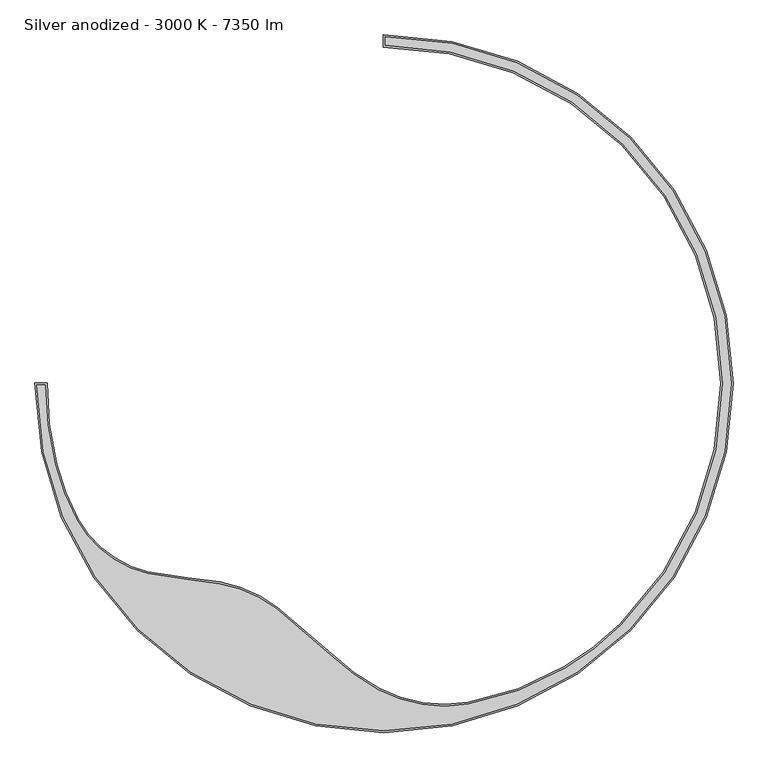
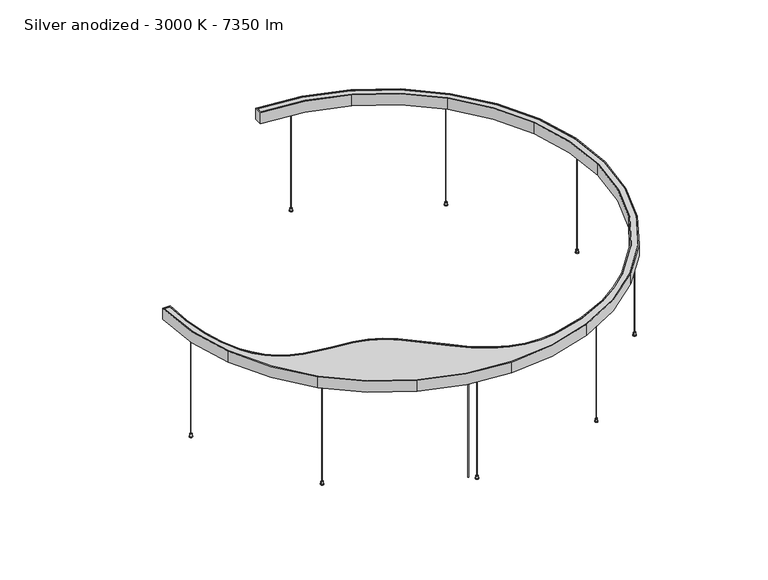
"""IFC4 building model written with IfcOpenShell, lengths in millimetres: light fixture geometry, KLUŚ - MIFOR - MI-MOON : Silver anodized - 3000 K - 7350 lm."""

from ifc_helpers import new_model, si_unit, point, frame, frame_2d, origin, origin_with_axes, origin_2d, place, context, project, spatial, polyline, circle_curve, trimmed, segment, composite_curve, outline, extrude, source, transform, mapped, element, save


def silver_anodized_3000_k_7350_lm_4203b03f(model_context):
    return source(origin(), model_context, "Body", "SweptSolid", [
        extrude(outline(composite_curve([segment(trimmed(circle_curve(frame_2d((-1028.0681684, -176.2957148)), 1.75), [point((-1026.3181684, -176.2957148))], [point((-1029.8181684, -176.2957148))], False, "CARTESIAN"), True, "CONTINUOUS"), segment(trimmed(circle_curve(frame_2d((-1028.0681684, -176.2957148)), 1.75), [point((-1029.8181684, -176.2957148))], [point((-1026.3181684, -176.2957148))], False, "CARTESIAN"), True, "CONTINUOUS")], self_intersect=False)), frame((0.0, 0.0, 500.5), z_axis=(0.0, 0.0, 1.0), x_axis=(1.0, 0.0, 0.0)), (0.0, 0.0, 1.0), 3.5),
        extrude(outline(composite_curve([segment(trimmed(circle_curve(frame_2d((-728.1150271, -746.865129)), 1.75), [point((-726.3650271, -746.865129))], [point((-729.8650271, -746.865129))], False, "CARTESIAN"), True, "CONTINUOUS"), segment(trimmed(circle_curve(frame_2d((-728.1150271, -746.865129)), 1.75), [point((-729.8650271, -746.865129))], [point((-726.3650271, -746.865129))], False, "CARTESIAN"), True, "CONTINUOUS")], self_intersect=False)), frame((0.0, 0.0, 500.5), z_axis=(0.0, 0.0, 1.0), x_axis=(1.0, 0.0, 0.0)), (0.0, 0.0, 1.0), 3.5),
        extrude(outline(composite_curve([segment(trimmed(circle_curve(frame_2d((-150.0755513, -1032.1574488)), 1.75), [point((-148.3255513, -1032.1574488))], [point((-151.8255513, -1032.1574488))], False, "CARTESIAN"), True, "CONTINUOUS"), segment(trimmed(circle_curve(frame_2d((-150.0755513, -1032.1574488)), 1.75), [point((-151.8255513, -1032.1574488))], [point((-148.3255513, -1032.1574488))], False, "CARTESIAN"), True, "CONTINUOUS")], self_intersect=False)), frame((0.0, 0.0, 500.5), z_axis=(0.0, 0.0, 1.0), x_axis=(1.0, 0.0, 0.0)), (0.0, 0.0, 1.0), 3.5),
        extrude(outline(composite_curve([segment(trimmed(circle_curve(frame_2d((485.2588263, -923.2007047)), 1.75), [point((487.0088263, -923.2007047))], [point((483.5088263, -923.2007047))], False, "CARTESIAN"), True, "CONTINUOUS"), segment(trimmed(circle_curve(frame_2d((485.2588263, -923.2007047)), 1.75), [point((483.5088263, -923.2007047))], [point((487.0088263, -923.2007047))], False, "CARTESIAN"), True, "CONTINUOUS")], self_intersect=False)), frame((0.0, 0.0, 500.5), z_axis=(0.0, 0.0, 1.0), x_axis=(1.0, 0.0, 0.0)), (0.0, 0.0, 1.0), 3.5),
        extrude(outline(composite_curve([segment(trimmed(circle_curve(frame_2d((935.2119675, -461.6126697)), 1.75), [point((936.9619675, -461.6126697))], [point((933.4619675, -461.6126697))], False, "CARTESIAN"), True, "CONTINUOUS"), segment(trimmed(circle_curve(frame_2d((935.2119675, -461.6126697)), 1.75), [point((933.4619675, -461.6126697))], [point((936.9619675, -461.6126697))], False, "CARTESIAN"), True, "CONTINUOUS")], self_intersect=False)), frame((0.0, 0.0, 500.5), z_axis=(0.0, 0.0, 1.0), x_axis=(1.0, 0.0, 0.0)), (0.0, 0.0, 1.0), 3.5),
        extrude(outline(composite_curve([segment(trimmed(circle_curve(frame_2d((1027.9170658, 176.2957157)), 1.75), [point((1029.6670658, 176.2957157))], [point((1026.1670658, 176.2957157))], False, "CARTESIAN"), True, "CONTINUOUS"), segment(trimmed(circle_curve(frame_2d((1027.9170658, 176.2957157)), 1.75), [point((1026.1670658, 176.2957157))], [point((1029.6670658, 176.2957157))], False, "CARTESIAN"), True, "CONTINUOUS")], self_intersect=False)), frame((0.0, 0.0, 500.5), z_axis=(0.0, 0.0, 1.0), x_axis=(1.0, 0.0, 0.0)), (0.0, 0.0, 1.0), 3.5),
        extrude(outline(composite_curve([segment(trimmed(circle_curve(frame_2d((727.9639246, 746.8651299)), 1.75), [point((729.7139246, 746.8651299))], [point((726.2139246, 746.8651299))], False, "CARTESIAN"), True, "CONTINUOUS"), segment(trimmed(circle_curve(frame_2d((727.9639246, 746.8651299)), 1.75), [point((726.2139246, 746.8651299))], [point((729.7139246, 746.8651299))], False, "CARTESIAN"), True, "CONTINUOUS")], self_intersect=False)), frame((0.0, 0.0, 500.5), z_axis=(0.0, 0.0, 1.0), x_axis=(1.0, 0.0, 0.0)), (0.0, 0.0, 1.0), 3.5),
        extrude(outline(composite_curve([segment(trimmed(circle_curve(frame_2d((149.9244487, 1032.1574497)), 1.75), [point((151.6744487, 1032.1574497))], [point((148.1744487, 1032.1574497))], False, "CARTESIAN"), True, "CONTINUOUS"), segment(trimmed(circle_curve(frame_2d((149.9244487, 1032.1574497)), 1.75), [point((148.1744487, 1032.1574497))], [point((151.6744487, 1032.1574497))], False, "CARTESIAN"), True, "CONTINUOUS")], self_intersect=False)), frame((0.0, 0.0, 500.5), z_axis=(0.0, 0.0, 1.0), x_axis=(1.0, 0.0, 0.0)), (0.0, 0.0, 1.0), 3.5),
        extrude(outline(composite_curve([segment(trimmed(circle_curve(frame_2d((-1028.0681684, -176.2957148)), 5.0), [point((-1023.0681684, -176.2957148))], [point((-1033.0681684, -176.2957148))], False, "CARTESIAN"), True, "CONTINUOUS"), segment(trimmed(circle_curve(frame_2d((-1028.0681684, -176.2957148)), 5.0), [point((-1033.0681684, -176.2957148))], [point((-1023.0681684, -176.2957148))], False, "CARTESIAN"), True, "CONTINUOUS")], self_intersect=False)), frame((0.0, 0.0, 3.0), z_axis=(0.0, 0.0, 1.0), x_axis=(1.0, 0.0, 0.0)), (0.0, 0.0, 1.0), 12.0),
        extrude(outline(composite_curve([segment(trimmed(circle_curve(frame_2d((-728.1150271, -746.865129)), 5.0), [point((-723.1150271, -746.865129))], [point((-733.1150271, -746.865129))], False, "CARTESIAN"), True, "CONTINUOUS"), segment(trimmed(circle_curve(frame_2d((-728.1150271, -746.865129)), 5.0), [point((-733.1150271, -746.865129))], [point((-723.1150271, -746.865129))], False, "CARTESIAN"), True, "CONTINUOUS")], self_intersect=False)), frame((0.0, 0.0, 3.0), z_axis=(0.0, 0.0, 1.0), x_axis=(1.0, 0.0, 0.0)), (0.0, 0.0, 1.0), 12.0),
        extrude(outline(composite_curve([segment(trimmed(circle_curve(frame_2d((-150.0755513, -1032.1574488)), 5.0), [point((-145.0755513, -1032.1574488))], [point((-155.0755513, -1032.1574488))], False, "CARTESIAN"), True, "CONTINUOUS"), segment(trimmed(circle_curve(frame_2d((-150.0755513, -1032.1574488)), 5.0), [point((-155.0755513, -1032.1574488))], [point((-145.0755513, -1032.1574488))], False, "CARTESIAN"), True, "CONTINUOUS")], self_intersect=False)), frame((0.0, 0.0, 3.0), z_axis=(0.0, 0.0, 1.0), x_axis=(1.0, 0.0, 0.0)), (0.0, 0.0, 1.0), 12.0),
        extrude(outline(composite_curve([segment(trimmed(circle_curve(frame_2d((485.2588263, -923.2007047)), 5.0), [point((490.2588263, -923.2007047))], [point((480.2588263, -923.2007047))], False, "CARTESIAN"), True, "CONTINUOUS"), segment(trimmed(circle_curve(frame_2d((485.2588263, -923.2007047)), 5.0), [point((480.2588263, -923.2007047))], [point((490.2588263, -923.2007047))], False, "CARTESIAN"), True, "CONTINUOUS")], self_intersect=False)), frame((0.0, 0.0, 3.0), z_axis=(0.0, 0.0, 1.0), x_axis=(1.0, 0.0, 0.0)), (0.0, 0.0, 1.0), 12.0),
        extrude(outline(composite_curve([segment(trimmed(circle_curve(frame_2d((935.2119675, -461.6126697)), 5.0), [point((940.2119675, -461.6126697))], [point((930.2119675, -461.6126697))], False, "CARTESIAN"), True, "CONTINUOUS"), segment(trimmed(circle_curve(frame_2d((935.2119675, -461.6126697)), 5.0), [point((930.2119675, -461.6126697))], [point((940.2119675, -461.6126697))], False, "CARTESIAN"), True, "CONTINUOUS")], self_intersect=False)), frame((0.0, 0.0, 3.0), z_axis=(0.0, 0.0, 1.0), x_axis=(1.0, 0.0, 0.0)), (0.0, 0.0, 1.0), 12.0),
        extrude(outline(composite_curve([segment(trimmed(circle_curve(frame_2d((1027.9170658, 176.2957157)), 5.0), [point((1032.9170658, 176.2957157))], [point((1022.9170658, 176.2957157))], False, "CARTESIAN"), True, "CONTINUOUS"), segment(trimmed(circle_curve(frame_2d((1027.9170658, 176.2957157)), 5.0), [point((1022.9170658, 176.2957157))], [point((1032.9170658, 176.2957157))], False, "CARTESIAN"), True, "CONTINUOUS")], self_intersect=False)), frame((0.0, 0.0, 3.0), z_axis=(0.0, 0.0, 1.0), x_axis=(1.0, 0.0, 0.0)), (0.0, 0.0, 1.0), 12.0),
        extrude(outline(composite_curve([segment(trimmed(circle_curve(frame_2d((727.9639246, 746.8651299)), 5.0), [point((732.9639246, 746.8651299))], [point((722.9639246, 746.8651299))], False, "CARTESIAN"), True, "CONTINUOUS"), segment(trimmed(circle_curve(frame_2d((727.9639246, 746.8651299)), 5.0), [point((722.9639246, 746.8651299))], [point((732.9639246, 746.8651299))], False, "CARTESIAN"), True, "CONTINUOUS")], self_intersect=False)), frame((0.0, 0.0, 3.0), z_axis=(0.0, 0.0, 1.0), x_axis=(1.0, 0.0, 0.0)), (0.0, 0.0, 1.0), 12.0),
        extrude(outline(composite_curve([segment(trimmed(circle_curve(frame_2d((149.9244487, 1032.1574497)), 5.0), [point((154.9244487, 1032.1574497))], [point((144.9244487, 1032.1574497))], False, "CARTESIAN"), True, "CONTINUOUS"), segment(trimmed(circle_curve(frame_2d((149.9244487, 1032.1574497)), 5.0), [point((144.9244487, 1032.1574497))], [point((154.9244487, 1032.1574497))], False, "CARTESIAN"), True, "CONTINUOUS")], self_intersect=False)), frame((0.0, 0.0, 3.0), z_axis=(0.0, 0.0, 1.0), x_axis=(1.0, 0.0, 0.0)), (0.0, 0.0, 1.0), 12.0),
        extrude(outline(composite_curve([segment(trimmed(circle_curve(frame_2d((-176.7216088, -1006.3051897)), 2.5), [point((-174.2216088, -1006.3051897))], [point((-179.2216088, -1006.3051897))], False, "CARTESIAN"), True, "CONTINUOUS"), segment(trimmed(circle_curve(frame_2d((-176.7216088, -1006.3051897)), 2.5), [point((-179.2216088, -1006.3051897))], [point((-174.2216088, -1006.3051897))], False, "CARTESIAN"), True, "CONTINUOUS")], self_intersect=False)), origin_with_axes(), (0.0, 0.0, 1.0), 516.0),
        extrude(outline(composite_curve([segment(polyline([(-1056.4942031, -3.5000005), (-1029.4941339, -3.5000005)]), True, "CONTINUOUS"), segment(trimmed(circle_curve(frame_2d((-8.46e-05, 0.0003412)), 1029.5), [point((-1029.4941339, -3.5000005))], [point((-999.7314862, -245.7787762))], True, "CARTESIAN"), True, "CONTINUOUS"), segment(trimmed(circle_curve(frame_2d((-329.084086, -80.9033649)), 690.6169971), [point((-999.7314862, -245.7787762))], [point((-933.3859691, -415.225172))], True, "CARTESIAN"), True, "CONTINUOUS"), segment(trimmed(circle_curve(frame_2d((-644.6604077, -255.4916776)), 329.9655119), [point((-933.3859691, -415.225172))], [point((-718.9066686, -576.9955373))], True, "CARTESIAN"), True, "CONTINUOUS"), segment(trimmed(circle_curve(frame_2d((-531.191214, 235.8567521)), 834.2457289), [point((-718.9066686, -576.9955373))], [point((-597.750194, -595.7295864))], True, "CARTESIAN"), True, "CONTINUOUS"), segment(trimmed(circle_curve(frame_2d((-682.8238534, -1658.6378973)), 1066.3074627), [point((-597.750194, -595.7295864))], [point((-499.2693636, -608.2478011))], False, "CARTESIAN"), True, "CONTINUOUS"), segment(trimmed(circle_curve(frame_2d((-566.4720843, -992.8151975)), 390.395041), [point((-499.2693636, -608.2478011))], [point((-327.72755, -683.9311815))], False, "CARTESIAN"), True, "CONTINUOUS"), segment(trimmed(circle_curve(frame_2d((-1619.0013412, -2354.5614037)), 2111.4907869), [point((-327.72755, -683.9311815))], [point((-162.7029999, -825.6439813))], False, "CARTESIAN"), True, "CONTINUOUS"), segment(trimmed(circle_curve(frame_2d((296.2359418, -343.8198085)), 665.416776), [point((-162.7029999, -825.6439813))], [point((-16.7453536, -931.0354371))], True, "CARTESIAN"), True, "CONTINUOUS"), segment(trimmed(circle_curve(frame_2d((182.820669, -556.6095876)), 424.2891869), [point((-16.7453536, -931.0354371))], [point((257.2862483, -974.3130609))], True, "CARTESIAN"), True, "CONTINUOUS"), segment(trimmed(circle_curve(frame_2d((102.2666211, -104.7537653)), 883.2691851), [point((257.2862483, -974.3130609))], [point((552.7349655, -864.518679))], True, "CARTESIAN"), True, "CONTINUOUS"), segment(trimmed(circle_curve(frame_2d((105.1228673, -109.5711419)), 877.6687155), [point((552.7349655, -864.518679))], [point((721.6182428, -734.2597253))], True, "CARTESIAN"), True, "CONTINUOUS"), segment(trimmed(circle_curve(frame_2d((-9.0057257, 6.0742172)), 1040.1469751), [point((721.6182428, -734.2597253))], [point((951.1319815, -393.9774208))], True, "CARTESIAN"), True, "CONTINUOUS"), segment(trimmed(circle_curve(frame_2d((0.0, -1e-06)), 1029.5000017), [point((951.1319815, -393.9774208))], [point((1029.5000016, -1.1e-06))], True, "CARTESIAN"), True, "CONTINUOUS"), segment(trimmed(circle_curve(frame_2d((0.0, -1e-06)), 1029.5000016), [point((1029.5000016, -1.1e-06))], [point((951.1339799, 393.9725941))], True, "CARTESIAN"), True, "CONTINUOUS"), segment(trimmed(circle_curve(frame_2d((0.0, -1e-06)), 1029.5000016), [point((951.1339799, 393.9725941))], [point((727.9664319, 727.9664319))], True, "CARTESIAN"), True, "CONTINUOUS"), segment(trimmed(circle_curve(frame_2d((0.0, -1e-06)), 1029.5000016), [point((727.9664319, 727.9664319))], [point((393.9725939, 951.1339793))], True, "CARTESIAN"), True, "CONTINUOUS"), segment(trimmed(circle_curve(frame_2d((0.0, -1e-06)), 1029.5000016), [point((393.9725939, 951.1339793))], [point((3.5, 1029.4940511))], True, "CARTESIAN"), True, "CONTINUOUS"), segment(polyline([(3.5, 1029.4940511), (3.5, 1056.4942031)]), True, "CONTINUOUS"), segment(trimmed(circle_curve(origin_2d(), 1056.5000005), [point((3.5, 1056.4942031))], [point((404.3050465, 976.0787266))], False, "CARTESIAN"), True, "CONTINUOUS"), segment(trimmed(circle_curve(origin_2d(), 1056.5000007), [point((404.3050465, 976.0787266))], [point((747.0583148, 747.0583148))], False, "CARTESIAN"), True, "CONTINUOUS"), segment(trimmed(circle_curve(origin_2d(), 1056.5000005), [point((747.0583148, 747.0583148))], [point((976.0787266, 404.3050465))], False, "CARTESIAN"), True, "CONTINUOUS"), segment(trimmed(circle_curve(origin_2d(), 1056.5000006), [point((976.0787266, 404.3050465))], [point((1056.5000006, 0.0))], False, "CARTESIAN"), True, "CONTINUOUS"), segment(trimmed(circle_curve(origin_2d(), 1056.5000006), [point((1056.5000006, 0.0))], [point((976.0787266, -404.3050465))], False, "CARTESIAN"), True, "CONTINUOUS"), segment(trimmed(circle_curve(origin_2d(), 1056.5000006), [point((976.0787266, -404.3050465))], [point((747.0583149, -747.0583146))], False, "CARTESIAN"), True, "CONTINUOUS"), segment(trimmed(circle_curve(origin_2d(), 1056.5000006), [point((747.0583149, -747.0583146))], [point((404.3050465, -976.0787266))], False, "CARTESIAN"), True, "CONTINUOUS"), segment(trimmed(circle_curve(origin_2d(), 1056.5000006), [point((404.3050465, -976.0787266))], [point((0.0, -1056.5000006))], False, "CARTESIAN"), True, "CONTINUOUS"), segment(trimmed(circle_curve(origin_2d(), 1056.5000006), [point((0.0, -1056.5000006))], [point((-404.3050465, -976.0787266))], False, "CARTESIAN"), True, "CONTINUOUS"), segment(trimmed(circle_curve(origin_2d(), 1056.5000006), [point((-404.3050465, -976.0787266))], [point((-747.0583147, -747.0583147))], False, "CARTESIAN"), True, "CONTINUOUS"), segment(trimmed(circle_curve(origin_2d(), 1056.5000006), [point((-747.0583147, -747.0583147))], [point((-976.0787267, -404.3050465))], False, "CARTESIAN"), True, "CONTINUOUS"), segment(trimmed(circle_curve(origin_2d(), 1056.5000006), [point((-976.0787267, -404.3050465))], [point((-1056.4942031, -3.5000005))], False, "CARTESIAN"), True, "CONTINUOUS")], self_intersect=False)), frame((0.0, 0.0, 516.0), z_axis=(0.0, 0.0, 1.0), x_axis=(1.0, 0.0, 0.0)), (0.0, 0.0, 1.0), 2.0),
        extrude(outline(composite_curve([segment(polyline([(-1056.4942031, -3.5000005), (-1029.4941339, -3.5000005)]), True, "CONTINUOUS"), segment(trimmed(circle_curve(frame_2d((-8.46e-05, 0.0003412)), 1029.5), [point((-1029.4941339, -3.5000005))], [point((-999.7314862, -245.7787762))], True, "CARTESIAN"), True, "CONTINUOUS"), segment(trimmed(circle_curve(frame_2d((-329.084086, -80.9033649)), 690.6169971), [point((-999.7314862, -245.7787762))], [point((-933.3859691, -415.225172))], True, "CARTESIAN"), True, "CONTINUOUS"), segment(trimmed(circle_curve(frame_2d((-644.6604077, -255.4916776)), 329.9655119), [point((-933.3859691, -415.225172))], [point((-718.9066686, -576.9955373))], True, "CARTESIAN"), True, "CONTINUOUS"), segment(trimmed(circle_curve(frame_2d((-531.191214, 235.8567521)), 834.2457289), [point((-718.9066686, -576.9955373))], [point((-597.750194, -595.7295864))], True, "CARTESIAN"), True, "CONTINUOUS"), segment(trimmed(circle_curve(frame_2d((-682.8238534, -1658.6378973)), 1066.3074627), [point((-597.750194, -595.7295864))], [point((-499.2693636, -608.2478011))], False, "CARTESIAN"), True, "CONTINUOUS"), segment(trimmed(circle_curve(frame_2d((-566.4720843, -992.8151975)), 390.395041), [point((-499.2693636, -608.2478011))], [point((-327.72755, -683.9311815))], False, "CARTESIAN"), True, "CONTINUOUS"), segment(trimmed(circle_curve(frame_2d((-1619.0013412, -2354.5614037)), 2111.4907869), [point((-327.72755, -683.9311815))], [point((-162.7029999, -825.6439813))], False, "CARTESIAN"), True, "CONTINUOUS"), segment(trimmed(circle_curve(frame_2d((296.2359418, -343.8198085)), 665.416776), [point((-162.7029999, -825.6439813))], [point((-16.7453536, -931.0354371))], True, "CARTESIAN"), True, "CONTINUOUS"), segment(trimmed(circle_curve(frame_2d((182.820669, -556.6095876)), 424.2891869), [point((-16.7453536, -931.0354371))], [point((257.2862483, -974.3130609))], True, "CARTESIAN"), True, "CONTINUOUS"), segment(trimmed(circle_curve(frame_2d((102.2666211, -104.7537653)), 883.2691851), [point((257.2862483, -974.3130609))], [point((552.7349655, -864.518679))], True, "CARTESIAN"), True, "CONTINUOUS"), segment(trimmed(circle_curve(frame_2d((105.1228673, -109.5711419)), 877.6687155), [point((552.7349655, -864.518679))], [point((721.6182428, -734.2597253))], True, "CARTESIAN"), True, "CONTINUOUS"), segment(trimmed(circle_curve(frame_2d((-9.0057257, 6.0742172)), 1040.1469751), [point((721.6182428, -734.2597253))], [point((951.1319815, -393.9774208))], True, "CARTESIAN"), True, "CONTINUOUS"), segment(trimmed(circle_curve(frame_2d((0.0, -1e-06)), 1029.5000017), [point((951.1319815, -393.9774208))], [point((1029.5000016, -1.1e-06))], True, "CARTESIAN"), True, "CONTINUOUS"), segment(trimmed(circle_curve(frame_2d((0.0, -1e-06)), 1029.5000016), [point((1029.5000016, -1.1e-06))], [point((951.1339799, 393.9725941))], True, "CARTESIAN"), True, "CONTINUOUS"), segment(trimmed(circle_curve(frame_2d((0.0, -1e-06)), 1029.5000016), [point((951.1339799, 393.9725941))], [point((727.9664319, 727.9664319))], True, "CARTESIAN"), True, "CONTINUOUS"), segment(trimmed(circle_curve(frame_2d((0.0, -1e-06)), 1029.5000016), [point((727.9664319, 727.9664319))], [point((393.9725939, 951.1339793))], True, "CARTESIAN"), True, "CONTINUOUS"), segment(trimmed(circle_curve(frame_2d((0.0, -1e-06)), 1029.5000016), [point((393.9725939, 951.1339793))], [point((3.5, 1029.4940511))], True, "CARTESIAN"), True, "CONTINUOUS"), segment(polyline([(3.5, 1029.4940511), (3.5, 1056.4942031)]), True, "CONTINUOUS"), segment(trimmed(circle_curve(origin_2d(), 1056.5000005), [point((3.5, 1056.4942031))], [point((404.3050465, 976.0787266))], False, "CARTESIAN"), True, "CONTINUOUS"), segment(trimmed(circle_curve(origin_2d(), 1056.5000007), [point((404.3050465, 976.0787266))], [point((747.0583148, 747.0583148))], False, "CARTESIAN"), True, "CONTINUOUS"), segment(trimmed(circle_curve(origin_2d(), 1056.5000005), [point((747.0583148, 747.0583148))], [point((976.0787266, 404.3050465))], False, "CARTESIAN"), True, "CONTINUOUS"), segment(trimmed(circle_curve(origin_2d(), 1056.5000006), [point((976.0787266, 404.3050465))], [point((1056.5000006, 0.0))], False, "CARTESIAN"), True, "CONTINUOUS"), segment(trimmed(circle_curve(origin_2d(), 1056.5000006), [point((1056.5000006, 0.0))], [point((976.0787266, -404.3050465))], False, "CARTESIAN"), True, "CONTINUOUS"), segment(trimmed(circle_curve(origin_2d(), 1056.5000006), [point((976.0787266, -404.3050465))], [point((747.0583149, -747.0583146))], False, "CARTESIAN"), True, "CONTINUOUS"), segment(trimmed(circle_curve(origin_2d(), 1056.5000006), [point((747.0583149, -747.0583146))], [point((404.3050465, -976.0787266))], False, "CARTESIAN"), True, "CONTINUOUS"), segment(trimmed(circle_curve(origin_2d(), 1056.5000006), [point((404.3050465, -976.0787266))], [point((0.0, -1056.5000006))], False, "CARTESIAN"), True, "CONTINUOUS"), segment(trimmed(circle_curve(origin_2d(), 1056.5000006), [point((0.0, -1056.5000006))], [point((-404.3050465, -976.0787266))], False, "CARTESIAN"), True, "CONTINUOUS"), segment(trimmed(circle_curve(origin_2d(), 1056.5000006), [point((-404.3050465, -976.0787266))], [point((-747.0583147, -747.0583147))], False, "CARTESIAN"), True, "CONTINUOUS"), segment(trimmed(circle_curve(origin_2d(), 1056.5000006), [point((-747.0583147, -747.0583147))], [point((-976.0787267, -404.3050465))], False, "CARTESIAN"), True, "CONTINUOUS"), segment(trimmed(circle_curve(origin_2d(), 1056.5000006), [point((-976.0787267, -404.3050465))], [point((-1056.4942031, -3.5000005))], False, "CARTESIAN"), True, "CONTINUOUS")], self_intersect=False)), frame((0.0, 0.0, 551.0), z_axis=(0.0, 0.0, 1.0), x_axis=(1.0, 0.0, 0.0)), (0.0, 0.0, 1.0), 2.0),
        extrude(outline(composite_curve([segment(polyline([(-1061.4989408, 1.4999995), (-1024.498987, 1.4999995)]), True, "CONTINUOUS"), segment(trimmed(circle_curve(frame_2d((-8.46e-05, 0.0003412)), 1024.5), [point((-1024.498987, 1.4999995))], [point((-994.8760641, -244.5850943))], True, "CARTESIAN"), True, "CONTINUOUS"), segment(trimmed(circle_curve(frame_2d((-329.084086, -80.9033649)), 685.6169971), [point((-994.8760641, -244.5850943))], [point((-929.0108822, -412.8047145))], True, "CARTESIAN"), True, "CONTINUOUS"), segment(trimmed(circle_curve(frame_2d((-644.6604077, -255.4916776)), 324.9655119), [point((-929.0108822, -412.8047145))], [point((-717.7816077, -572.1237575))], True, "CARTESIAN"), True, "CONTINUOUS"), segment(trimmed(circle_curve(frame_2d((-531.191214, 235.8567521)), 829.2457289), [point((-717.7816077, -572.1237575))], [point((-597.3512769, -590.7455253))], True, "CARTESIAN"), True, "CONTINUOUS"), segment(trimmed(circle_curve(frame_2d((-682.8238534, -1658.6378973)), 1071.3074627), [point((-597.3512769, -590.7455253))], [point((-498.4086621, -603.3224389))], False, "CARTESIAN"), True, "CONTINUOUS"), segment(trimmed(circle_curve(frame_2d((-566.4720843, -992.8151975)), 395.395041), [point((-498.4086621, -603.3224389))], [point((-324.6698198, -679.9751372))], False, "CARTESIAN"), True, "CONTINUOUS"), segment(trimmed(circle_curve(frame_2d((-1619.0013412, -2354.5614037)), 2116.4907869), [point((-324.6698198, -679.9751372))], [point((-159.2544925, -822.0235122))], False, "CARTESIAN"), True, "CONTINUOUS"), segment(trimmed(circle_curve(frame_2d((296.2359418, -343.8198085)), 660.416776), [point((-159.2544925, -822.0235122))], [point((-14.3935847, -926.6230473))], True, "CARTESIAN"), True, "CONTINUOUS"), segment(trimmed(circle_curve(frame_2d((182.820669, -556.6095876)), 419.2891869), [point((-14.3935847, -926.6230473))], [point((256.408715, -969.3906697))], True, "CARTESIAN"), True, "CONTINUOUS"), segment(trimmed(circle_curve(frame_2d((102.2666211, -104.7537653)), 878.2691851), [point((256.408715, -969.3906697))], [point((550.1849595, -860.2178105))], True, "CARTESIAN"), True, "CONTINUOUS"), segment(trimmed(circle_curve(frame_2d((105.1228673, -109.5711419)), 872.6687155), [point((550.1849595, -860.2178105))], [point((718.1061239, -730.7009304))], True, "CARTESIAN"), True, "CONTINUOUS"), segment(trimmed(circle_curve(frame_2d((-9.0057257, 6.0742172)), 1035.1469751), [point((718.1061239, -730.7009304))], [point((946.5145829, -392.0591772))], True, "CARTESIAN"), True, "CONTINUOUS"), segment(trimmed(circle_curve(frame_2d((0.0, -1e-06)), 1024.5000017), [point((946.5145829, -392.0591772))], [point((1024.5000016, -1.1e-06))], True, "CARTESIAN"), True, "CONTINUOUS"), segment(trimmed(circle_curve(frame_2d((0.0, -1e-06)), 1024.5000016), [point((1024.5000016, -1.1e-06))], [point((946.5145822, 392.0591769))], True, "CARTESIAN"), True, "CONTINUOUS"), segment(trimmed(circle_curve(frame_2d((0.0, -1e-06)), 1024.5000016), [point((946.5145822, 392.0591769))], [point((724.430898, 724.430898))], True, "CARTESIAN"), True, "CONTINUOUS"), segment(trimmed(circle_curve(frame_2d((0.0, -1e-06)), 1024.5000016), [point((724.430898, 724.430898))], [point((392.0591767, 946.5145817))], True, "CARTESIAN"), True, "CONTINUOUS"), segment(trimmed(circle_curve(frame_2d((0.0, -1e-06)), 1024.5000016), [point((392.0591767, 946.5145817))], [point((-1.5, 1024.4989025))], True, "CARTESIAN"), True, "CONTINUOUS"), segment(polyline([(-1.5, 1024.4989025), (-1.5, 1061.4989408)]), True, "CONTINUOUS"), segment(trimmed(circle_curve(origin_2d(), 1061.5000005), [point((-1.5, 1061.4989408))], [point((406.2184637, 980.6981243))], False, "CARTESIAN"), True, "CONTINUOUS"), segment(trimmed(circle_curve(origin_2d(), 1061.5000007), [point((406.2184637, 980.6981243))], [point((750.5938487, 750.5938487))], False, "CARTESIAN"), True, "CONTINUOUS"), segment(trimmed(circle_curve(origin_2d(), 1061.5000005), [point((750.5938487, 750.5938487))], [point((980.6981242, 406.2184637))], False, "CARTESIAN"), True, "CONTINUOUS"), segment(trimmed(circle_curve(origin_2d(), 1061.5000006), [point((980.6981242, 406.2184637))], [point((1061.5000006, 0.0))], False, "CARTESIAN"), True, "CONTINUOUS"), segment(trimmed(circle_curve(origin_2d(), 1061.5000006), [point((1061.5000006, 0.0))], [point((980.6981243, -406.2184637))], False, "CARTESIAN"), True, "CONTINUOUS"), segment(trimmed(circle_curve(origin_2d(), 1061.5000006), [point((980.6981243, -406.2184637))], [point((750.5938488, -750.5938485))], False, "CARTESIAN"), True, "CONTINUOUS"), segment(trimmed(circle_curve(origin_2d(), 1061.5000006), [point((750.5938488, -750.5938485))], [point((406.2184637, -980.6981243))], False, "CARTESIAN"), True, "CONTINUOUS"), segment(trimmed(circle_curve(origin_2d(), 1061.5000006), [point((406.2184637, -980.6981243))], [point((0.0, -1061.5000006))], False, "CARTESIAN"), True, "CONTINUOUS"), segment(trimmed(circle_curve(origin_2d(), 1061.5000006), [point((0.0, -1061.5000006))], [point((-406.2184637, -980.6981243))], False, "CARTESIAN"), True, "CONTINUOUS"), segment(trimmed(circle_curve(origin_2d(), 1061.5000006), [point((-406.2184637, -980.6981243))], [point((-750.5938486, -750.5938486))], False, "CARTESIAN"), True, "CONTINUOUS"), segment(trimmed(circle_curve(origin_2d(), 1061.5000006), [point((-750.5938486, -750.5938486))], [point((-980.6981243, -406.2184637))], False, "CARTESIAN"), True, "CONTINUOUS"), segment(trimmed(circle_curve(origin_2d(), 1061.5000006), [point((-980.6981243, -406.2184637))], [point((-1061.4989408, 1.4999995))], False, "CARTESIAN"), True, "CONTINUOUS")], self_intersect=False), holes=[composite_curve([segment(trimmed(circle_curve(origin_2d(), 1056.5000006), [point((-1056.4942031, -3.5000005))], [point((-976.0787266, -404.3050465))], True, "CARTESIAN"), True, "CONTINUOUS"), segment(trimmed(circle_curve(origin_2d(), 1056.5000006), [point((-976.0787266, -404.3050465))], [point((-747.0583148, -747.0583147))], True, "CARTESIAN"), True, "CONTINUOUS"), segment(trimmed(circle_curve(origin_2d(), 1056.5000006), [point((-747.0583148, -747.0583147))], [point((-404.3050465, -976.0787266))], True, "CARTESIAN"), True, "CONTINUOUS"), segment(trimmed(circle_curve(origin_2d(), 1056.5000006), [point((-404.3050465, -976.0787266))], [point((0.0, -1056.5000005))], True, "CARTESIAN"), True, "CONTINUOUS"), segment(trimmed(circle_curve(origin_2d(), 1056.5000006), [point((0.0, -1056.5000005))], [point((404.3050465, -976.0787266))], True, "CARTESIAN"), True, "CONTINUOUS"), segment(trimmed(circle_curve(origin_2d(), 1056.5000006), [point((404.3050465, -976.0787266))], [point((747.0583149, -747.0583145))], True, "CARTESIAN"), True, "CONTINUOUS"), segment(trimmed(circle_curve(origin_2d(), 1056.5000006), [point((747.0583149, -747.0583145))], [point((976.0787266, -404.3050465))], True, "CARTESIAN"), True, "CONTINUOUS"), segment(trimmed(circle_curve(origin_2d(), 1056.5000006), [point((976.0787266, -404.3050465))], [point((1056.5000005, 0.0))], True, "CARTESIAN"), True, "CONTINUOUS"), segment(trimmed(circle_curve(origin_2d(), 1056.5000006), [point((1056.5000005, 0.0))], [point((976.0787267, 404.3050465))], True, "CARTESIAN"), True, "CONTINUOUS"), segment(trimmed(circle_curve(origin_2d(), 1056.5000005), [point((976.0787267, 404.3050465))], [point((747.0583147, 747.0583147))], True, "CARTESIAN"), True, "CONTINUOUS"), segment(trimmed(circle_curve(origin_2d(), 1056.5000007), [point((747.0583147, 747.0583147))], [point((404.3050466, 976.0787267))], True, "CARTESIAN"), True, "CONTINUOUS"), segment(trimmed(circle_curve(origin_2d(), 1056.5000005), [point((404.3050466, 976.0787267))], [point((3.5, 1056.4942031))], True, "CARTESIAN"), True, "CONTINUOUS"), segment(polyline([(3.5, 1056.4942031), (3.5, 1029.4940511)]), True, "CONTINUOUS"), segment(trimmed(circle_curve(frame_2d((0.0, -1e-06)), 1029.5000016), [point((3.5, 1029.4940511))], [point((393.9725939, 951.1339793))], False, "CARTESIAN"), True, "CONTINUOUS"), segment(trimmed(circle_curve(frame_2d((0.0, -1e-06)), 1029.5000016), [point((393.9725939, 951.1339793))], [point((727.9664318, 727.9664319))], False, "CARTESIAN"), True, "CONTINUOUS"), segment(trimmed(circle_curve(frame_2d((0.0, -1e-06)), 1029.5000016), [point((727.9664318, 727.9664319))], [point((951.1339799, 393.9725941))], False, "CARTESIAN"), True, "CONTINUOUS"), segment(trimmed(circle_curve(frame_2d((0.0, -1e-06)), 1029.5000016), [point((951.1339799, 393.9725941))], [point((1029.5000016, -1.1e-06))], False, "CARTESIAN"), True, "CONTINUOUS"), segment(trimmed(circle_curve(frame_2d((0.0, -1e-06)), 1029.5000017), [point((1029.5000016, -1.1e-06))], [point((951.1319815, -393.9774208))], False, "CARTESIAN"), True, "CONTINUOUS"), segment(trimmed(circle_curve(frame_2d((-9.0057257, 6.0742172)), 1040.1469751), [point((951.1319815, -393.9774208))], [point((721.6182428, -734.2597253))], False, "CARTESIAN"), True, "CONTINUOUS"), segment(trimmed(circle_curve(frame_2d((105.1228673, -109.5711419)), 877.6687155), [point((721.6182428, -734.2597253))], [point((552.7349655, -864.518679))], False, "CARTESIAN"), True, "CONTINUOUS"), segment(trimmed(circle_curve(frame_2d((102.2666211, -104.7537653)), 883.2691851), [point((552.7349655, -864.518679))], [point((257.2862483, -974.3130609))], False, "CARTESIAN"), True, "CONTINUOUS"), segment(trimmed(circle_curve(frame_2d((182.820669, -556.6095876)), 424.2891869), [point((257.2862483, -974.3130609))], [point((-16.7453536, -931.0354371))], False, "CARTESIAN"), True, "CONTINUOUS"), segment(trimmed(circle_curve(frame_2d((296.2359418, -343.8198085)), 665.416776), [point((-16.7453536, -931.0354371))], [point((-162.7029999, -825.6439813))], False, "CARTESIAN"), True, "CONTINUOUS"), segment(trimmed(circle_curve(frame_2d((-1619.0013412, -2354.5614037)), 2111.4907869), [point((-162.7029999, -825.6439813))], [point((-327.72755, -683.9311815))], True, "CARTESIAN"), True, "CONTINUOUS"), segment(trimmed(circle_curve(frame_2d((-566.4720843, -992.8151975)), 390.395041), [point((-327.72755, -683.9311815))], [point((-499.2693636, -608.2478011))], True, "CARTESIAN"), True, "CONTINUOUS"), segment(trimmed(circle_curve(frame_2d((-682.8238534, -1658.6378973)), 1066.3074627), [point((-499.2693636, -608.2478011))], [point((-597.750194, -595.7295864))], True, "CARTESIAN"), True, "CONTINUOUS"), segment(trimmed(circle_curve(frame_2d((-531.191214, 235.8567521)), 834.2457289), [point((-597.750194, -595.7295864))], [point((-718.9066686, -576.9955373))], False, "CARTESIAN"), True, "CONTINUOUS"), segment(trimmed(circle_curve(frame_2d((-644.6604077, -255.4916776)), 329.9655119), [point((-718.9066686, -576.9955373))], [point((-933.3859691, -415.225172))], False, "CARTESIAN"), True, "CONTINUOUS"), segment(trimmed(circle_curve(frame_2d((-329.084086, -80.9033649)), 690.6169971), [point((-933.3859691, -415.225172))], [point((-999.7314862, -245.7787762))], False, "CARTESIAN"), True, "CONTINUOUS"), segment(trimmed(circle_curve(frame_2d((-8.46e-05, 0.0003412)), 1029.5), [point((-999.7314862, -245.7787762))], [point((-1029.4941339, -3.5000005))], False, "CARTESIAN"), True, "CONTINUOUS"), segment(polyline([(-1029.4941339, -3.5000005), (-1056.4942031, -3.5000005)]), True, "CONTINUOUS")], self_intersect=False)]), frame((0.0, 0.0, 500.0), z_axis=(0.0, 0.0, 1.0), x_axis=(1.0, 0.0, 0.0)), (0.0, 0.0, 1.0), 55.0),
        extrude(outline(composite_curve([segment(trimmed(circle_curve(frame_2d((-1028.0681684, -176.2957148)), 0.5), [point((-1027.5681684, -176.2957148))], [point((-1028.5681684, -176.2957148))], False, "CARTESIAN"), True, "CONTINUOUS"), segment(trimmed(circle_curve(frame_2d((-1028.0681684, -176.2957148)), 0.5), [point((-1028.5681684, -176.2957148))], [point((-1027.5681684, -176.2957148))], False, "CARTESIAN"), True, "CONTINUOUS")], self_intersect=False)), frame((0.0, 0.0, 15.0), z_axis=(0.0, 0.0, 1.0), x_axis=(1.0, 0.0, 0.0)), (0.0, 0.0, 1.0), 485.5),
        extrude(outline(composite_curve([segment(trimmed(circle_curve(frame_2d((-728.1150271, -746.865129)), 0.5), [point((-727.6150271, -746.865129))], [point((-728.6150271, -746.865129))], False, "CARTESIAN"), True, "CONTINUOUS"), segment(trimmed(circle_curve(frame_2d((-728.1150271, -746.865129)), 0.5), [point((-728.6150271, -746.865129))], [point((-727.6150271, -746.865129))], False, "CARTESIAN"), True, "CONTINUOUS")], self_intersect=False)), frame((0.0, 0.0, 15.0), z_axis=(0.0, 0.0, 1.0), x_axis=(1.0, 0.0, 0.0)), (0.0, 0.0, 1.0), 485.5),
        extrude(outline(composite_curve([segment(trimmed(circle_curve(frame_2d((-150.0755513, -1032.1574488)), 0.5), [point((-149.5755513, -1032.1574488))], [point((-150.5755513, -1032.1574488))], False, "CARTESIAN"), True, "CONTINUOUS"), segment(trimmed(circle_curve(frame_2d((-150.0755513, -1032.1574488)), 0.5), [point((-150.5755513, -1032.1574488))], [point((-149.5755513, -1032.1574488))], False, "CARTESIAN"), True, "CONTINUOUS")], self_intersect=False)), frame((0.0, 0.0, 15.0), z_axis=(0.0, 0.0, 1.0), x_axis=(1.0, 0.0, 0.0)), (0.0, 0.0, 1.0), 485.5),
        extrude(outline(composite_curve([segment(trimmed(circle_curve(frame_2d((485.2588263, -923.2007047)), 0.5), [point((485.7588263, -923.2007047))], [point((484.7588263, -923.2007047))], False, "CARTESIAN"), True, "CONTINUOUS"), segment(trimmed(circle_curve(frame_2d((485.2588263, -923.2007047)), 0.5), [point((484.7588263, -923.2007047))], [point((485.7588263, -923.2007047))], False, "CARTESIAN"), True, "CONTINUOUS")], self_intersect=False)), frame((0.0, 0.0, 15.0), z_axis=(0.0, 0.0, 1.0), x_axis=(1.0, 0.0, 0.0)), (0.0, 0.0, 1.0), 485.5),
        extrude(outline(composite_curve([segment(trimmed(circle_curve(frame_2d((935.2119675, -461.6126697)), 0.5), [point((935.7119675, -461.6126697))], [point((934.7119675, -461.6126697))], False, "CARTESIAN"), True, "CONTINUOUS"), segment(trimmed(circle_curve(frame_2d((935.2119675, -461.6126697)), 0.5), [point((934.7119675, -461.6126697))], [point((935.7119675, -461.6126697))], False, "CARTESIAN"), True, "CONTINUOUS")], self_intersect=False)), frame((0.0, 0.0, 15.0), z_axis=(0.0, 0.0, 1.0), x_axis=(1.0, 0.0, 0.0)), (0.0, 0.0, 1.0), 485.5),
        extrude(outline(composite_curve([segment(trimmed(circle_curve(frame_2d((1027.9170658, 176.2957157)), 0.5), [point((1028.4170658, 176.2957157))], [point((1027.4170658, 176.2957157))], False, "CARTESIAN"), True, "CONTINUOUS"), segment(trimmed(circle_curve(frame_2d((1027.9170658, 176.2957157)), 0.5), [point((1027.4170658, 176.2957157))], [point((1028.4170658, 176.2957157))], False, "CARTESIAN"), True, "CONTINUOUS")], self_intersect=False)), frame((0.0, 0.0, 15.0), z_axis=(0.0, 0.0, 1.0), x_axis=(1.0, 0.0, 0.0)), (0.0, 0.0, 1.0), 485.5),
        extrude(outline(composite_curve([segment(trimmed(circle_curve(frame_2d((727.9639246, 746.8651299)), 0.5), [point((728.4639246, 746.8651299))], [point((727.4639246, 746.8651299))], False, "CARTESIAN"), True, "CONTINUOUS"), segment(trimmed(circle_curve(frame_2d((727.9639246, 746.8651299)), 0.5), [point((727.4639246, 746.8651299))], [point((728.4639246, 746.8651299))], False, "CARTESIAN"), True, "CONTINUOUS")], self_intersect=False)), frame((0.0, 0.0, 15.0), z_axis=(0.0, 0.0, 1.0), x_axis=(1.0, 0.0, 0.0)), (0.0, 0.0, 1.0), 485.5),
        extrude(outline(composite_curve([segment(trimmed(circle_curve(frame_2d((149.9244487, 1032.1574497)), 0.5), [point((150.4244487, 1032.1574497))], [point((149.4244487, 1032.1574497))], False, "CARTESIAN"), True, "CONTINUOUS"), segment(trimmed(circle_curve(frame_2d((149.9244487, 1032.1574497)), 0.5), [point((149.4244487, 1032.1574497))], [point((150.4244487, 1032.1574497))], False, "CARTESIAN"), True, "CONTINUOUS")], self_intersect=False)), frame((0.0, 0.0, 15.0), z_axis=(0.0, 0.0, 1.0), x_axis=(1.0, 0.0, 0.0)), (0.0, 0.0, 1.0), 485.5),
        extrude(outline(composite_curve([segment(trimmed(circle_curve(frame_2d((-1028.0681684, -176.2957148)), 4.0), [point((-1024.0681684, -176.2957148))], [point((-1032.0681684, -176.2957148))], False, "CARTESIAN"), True, "CONTINUOUS"), segment(trimmed(circle_curve(frame_2d((-1028.0681684, -176.2957148)), 4.0), [point((-1032.0681684, -176.2957148))], [point((-1024.0681684, -176.2957148))], False, "CARTESIAN"), True, "CONTINUOUS")], self_intersect=False)), frame((0.0, 0.0, 504.0), z_axis=(0.0, 0.0, 1.0), x_axis=(1.0, 0.0, 0.0)), (0.0, 0.0, 1.0), 12.0),
        extrude(outline(composite_curve([segment(trimmed(circle_curve(frame_2d((-728.1150271, -746.865129)), 4.0), [point((-724.1150271, -746.865129))], [point((-732.1150271, -746.865129))], False, "CARTESIAN"), True, "CONTINUOUS"), segment(trimmed(circle_curve(frame_2d((-728.1150271, -746.865129)), 4.0), [point((-732.1150271, -746.865129))], [point((-724.1150271, -746.865129))], False, "CARTESIAN"), True, "CONTINUOUS")], self_intersect=False)), frame((0.0, 0.0, 504.0), z_axis=(0.0, 0.0, 1.0), x_axis=(1.0, 0.0, 0.0)), (0.0, 0.0, 1.0), 12.0),
        extrude(outline(composite_curve([segment(trimmed(circle_curve(frame_2d((-150.0755513, -1032.1574488)), 4.0), [point((-146.0755513, -1032.1574488))], [point((-154.0755513, -1032.1574488))], False, "CARTESIAN"), True, "CONTINUOUS"), segment(trimmed(circle_curve(frame_2d((-150.0755513, -1032.1574488)), 4.0), [point((-154.0755513, -1032.1574488))], [point((-146.0755513, -1032.1574488))], False, "CARTESIAN"), True, "CONTINUOUS")], self_intersect=False)), frame((0.0, 0.0, 504.0), z_axis=(0.0, 0.0, 1.0), x_axis=(1.0, 0.0, 0.0)), (0.0, 0.0, 1.0), 12.0),
        extrude(outline(composite_curve([segment(trimmed(circle_curve(frame_2d((485.2588263, -923.2007047)), 4.0), [point((489.2588263, -923.2007047))], [point((481.2588263, -923.2007047))], False, "CARTESIAN"), True, "CONTINUOUS"), segment(trimmed(circle_curve(frame_2d((485.2588263, -923.2007047)), 4.0), [point((481.2588263, -923.2007047))], [point((489.2588263, -923.2007047))], False, "CARTESIAN"), True, "CONTINUOUS")], self_intersect=False)), frame((0.0, 0.0, 504.0), z_axis=(0.0, 0.0, 1.0), x_axis=(1.0, 0.0, 0.0)), (0.0, 0.0, 1.0), 12.0),
        extrude(outline(composite_curve([segment(trimmed(circle_curve(frame_2d((935.2119675, -461.6126697)), 4.0), [point((939.2119675, -461.6126697))], [point((931.2119675, -461.6126697))], False, "CARTESIAN"), True, "CONTINUOUS"), segment(trimmed(circle_curve(frame_2d((935.2119675, -461.6126697)), 4.0), [point((931.2119675, -461.6126697))], [point((939.2119675, -461.6126697))], False, "CARTESIAN"), True, "CONTINUOUS")], self_intersect=False)), frame((0.0, 0.0, 504.0), z_axis=(0.0, 0.0, 1.0), x_axis=(1.0, 0.0, 0.0)), (0.0, 0.0, 1.0), 12.0),
        extrude(outline(composite_curve([segment(trimmed(circle_curve(frame_2d((1027.9170658, 176.2957157)), 4.0), [point((1031.9170658, 176.2957157))], [point((1023.9170658, 176.2957157))], False, "CARTESIAN"), True, "CONTINUOUS"), segment(trimmed(circle_curve(frame_2d((1027.9170658, 176.2957157)), 4.0), [point((1023.9170658, 176.2957157))], [point((1031.9170658, 176.2957157))], False, "CARTESIAN"), True, "CONTINUOUS")], self_intersect=False)), frame((0.0, 0.0, 504.0), z_axis=(0.0, 0.0, 1.0), x_axis=(1.0, 0.0, 0.0)), (0.0, 0.0, 1.0), 12.0),
        extrude(outline(composite_curve([segment(trimmed(circle_curve(frame_2d((727.9639246, 746.8651299)), 4.0), [point((731.9639246, 746.8651299))], [point((723.9639246, 746.8651299))], False, "CARTESIAN"), True, "CONTINUOUS"), segment(trimmed(circle_curve(frame_2d((727.9639246, 746.8651299)), 4.0), [point((723.9639246, 746.8651299))], [point((731.9639246, 746.8651299))], False, "CARTESIAN"), True, "CONTINUOUS")], self_intersect=False)), frame((0.0, 0.0, 504.0), z_axis=(0.0, 0.0, 1.0), x_axis=(1.0, 0.0, 0.0)), (0.0, 0.0, 1.0), 12.0),
        extrude(outline(composite_curve([segment(trimmed(circle_curve(frame_2d((149.9244487, 1032.1574497)), 4.0), [point((153.9244487, 1032.1574497))], [point((145.9244487, 1032.1574497))], False, "CARTESIAN"), True, "CONTINUOUS"), segment(trimmed(circle_curve(frame_2d((149.9244487, 1032.1574497)), 4.0), [point((145.9244487, 1032.1574497))], [point((153.9244487, 1032.1574497))], False, "CARTESIAN"), True, "CONTINUOUS")], self_intersect=False)), frame((0.0, 0.0, 504.0), z_axis=(0.0, 0.0, 1.0), x_axis=(1.0, 0.0, 0.0)), (0.0, 0.0, 1.0), 12.0),
        extrude(outline(composite_curve([segment(trimmed(circle_curve(frame_2d((-1028.0681684, -176.2957148)), 7.0), [point((-1021.0681684, -176.2957148))], [point((-1035.0681684, -176.2957148))], False, "CARTESIAN"), True, "CONTINUOUS"), segment(trimmed(circle_curve(frame_2d((-1028.0681684, -176.2957148)), 7.0), [point((-1035.0681684, -176.2957148))], [point((-1021.0681684, -176.2957148))], False, "CARTESIAN"), True, "CONTINUOUS")], self_intersect=False)), origin_with_axes(), (0.0, 0.0, 1.0), 3.0),
        extrude(outline(composite_curve([segment(trimmed(circle_curve(frame_2d((-728.1150271, -746.865129)), 7.0), [point((-721.1150271, -746.865129))], [point((-735.1150271, -746.865129))], False, "CARTESIAN"), True, "CONTINUOUS"), segment(trimmed(circle_curve(frame_2d((-728.1150271, -746.865129)), 7.0), [point((-735.1150271, -746.865129))], [point((-721.1150271, -746.865129))], False, "CARTESIAN"), True, "CONTINUOUS")], self_intersect=False)), origin_with_axes(), (0.0, 0.0, 1.0), 3.0),
        extrude(outline(composite_curve([segment(trimmed(circle_curve(frame_2d((-150.0755513, -1032.1574488)), 7.0), [point((-143.0755513, -1032.1574488))], [point((-157.0755513, -1032.1574488))], False, "CARTESIAN"), True, "CONTINUOUS"), segment(trimmed(circle_curve(frame_2d((-150.0755513, -1032.1574488)), 7.0), [point((-157.0755513, -1032.1574488))], [point((-143.0755513, -1032.1574488))], False, "CARTESIAN"), True, "CONTINUOUS")], self_intersect=False)), origin_with_axes(), (0.0, 0.0, 1.0), 3.0),
        extrude(outline(composite_curve([segment(trimmed(circle_curve(frame_2d((485.2588263, -923.2007047)), 7.0), [point((492.2588263, -923.2007047))], [point((478.2588263, -923.2007047))], False, "CARTESIAN"), True, "CONTINUOUS"), segment(trimmed(circle_curve(frame_2d((485.2588263, -923.2007047)), 7.0), [point((478.2588263, -923.2007047))], [point((492.2588263, -923.2007047))], False, "CARTESIAN"), True, "CONTINUOUS")], self_intersect=False)), origin_with_axes(), (0.0, 0.0, 1.0), 3.0),
        extrude(outline(composite_curve([segment(trimmed(circle_curve(frame_2d((935.2119675, -461.6126697)), 7.0), [point((942.2119675, -461.6126697))], [point((928.2119675, -461.6126697))], False, "CARTESIAN"), True, "CONTINUOUS"), segment(trimmed(circle_curve(frame_2d((935.2119675, -461.6126697)), 7.0), [point((928.2119675, -461.6126697))], [point((942.2119675, -461.6126697))], False, "CARTESIAN"), True, "CONTINUOUS")], self_intersect=False)), origin_with_axes(), (0.0, 0.0, 1.0), 3.0),
        extrude(outline(composite_curve([segment(trimmed(circle_curve(frame_2d((1027.9170658, 176.2957157)), 7.0), [point((1034.9170658, 176.2957157))], [point((1020.9170658, 176.2957157))], False, "CARTESIAN"), True, "CONTINUOUS"), segment(trimmed(circle_curve(frame_2d((1027.9170658, 176.2957157)), 7.0), [point((1020.9170658, 176.2957157))], [point((1034.9170658, 176.2957157))], False, "CARTESIAN"), True, "CONTINUOUS")], self_intersect=False)), origin_with_axes(), (0.0, 0.0, 1.0), 3.0),
        extrude(outline(composite_curve([segment(trimmed(circle_curve(frame_2d((727.9639246, 746.8651299)), 7.0), [point((734.9639246, 746.8651299))], [point((720.9639246, 746.8651299))], False, "CARTESIAN"), True, "CONTINUOUS"), segment(trimmed(circle_curve(frame_2d((727.9639246, 746.8651299)), 7.0), [point((720.9639246, 746.8651299))], [point((734.9639246, 746.8651299))], False, "CARTESIAN"), True, "CONTINUOUS")], self_intersect=False)), origin_with_axes(), (0.0, 0.0, 1.0), 3.0),
        extrude(outline(composite_curve([segment(trimmed(circle_curve(frame_2d((149.9244487, 1032.1574497)), 7.0), [point((156.9244487, 1032.1574497))], [point((142.9244487, 1032.1574497))], False, "CARTESIAN"), True, "CONTINUOUS"), segment(trimmed(circle_curve(frame_2d((149.9244487, 1032.1574497)), 7.0), [point((142.9244487, 1032.1574497))], [point((156.9244487, 1032.1574497))], False, "CARTESIAN"), True, "CONTINUOUS")], self_intersect=False)), origin_with_axes(), (0.0, 0.0, 1.0), 3.0),
    ])


if __name__ == "__main__":
    model = new_model("IFC4")
    model_context = context("Model", 3, world=origin())
    ifc_project = project(units=[si_unit("LENGTHUNIT", "METRE", prefix="MILLI")], contexts=[model_context])
    site = spatial("IfcSite", under=ifc_project)
    building = spatial("IfcBuilding", under=site)
    placement = place(None, origin())
    silver_anodized_3000_k_7350_lm_shape = silver_anodized_3000_k_7350_lm_4203b03f(model_context)
    element("IfcLightFixture", 1, ObjectType="KLUŚ - MIFOR - MI-MOON : Silver anodized - 3000 K - 7350 lm", at=placement, inside=building, context=model_context, shape_type="MappedRepresentation", body=[
        mapped(silver_anodized_3000_k_7350_lm_shape, transform((0.0, 0.0, 0.0), x_axis=(1.0, 0.0, 0.0), y_axis=(0.0, 1.0, 0.0), z_axis=(0.0, 0.0, 1.0))),
    ])
    save(model, "model.ifc")
